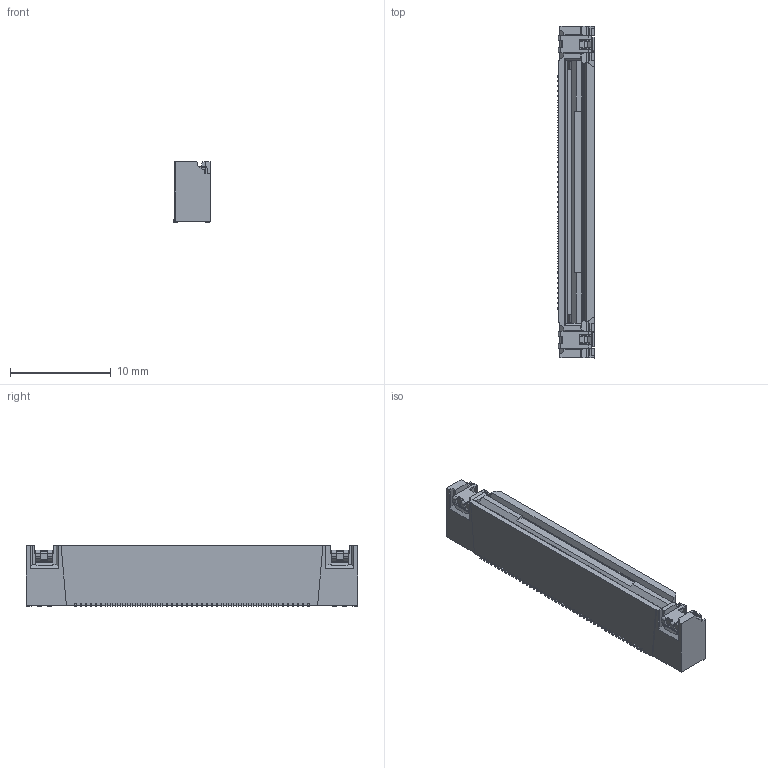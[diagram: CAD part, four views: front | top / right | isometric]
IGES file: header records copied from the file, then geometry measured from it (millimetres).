
Start section: SolidWorks IGES file using analytic representation for surfaces
Global section: file name: N:\Kamikawa_Hisako\★三次元モデル作成依頼\6810\6810_ANC_修正\OK品\006810645010.IGS,15HSolidWorks; native system: 2021; preprocessor: SolidWorks 2021; author: HISAKO.KAMIKAWA.FJ; date: 220620.130741; units: millimetre
Bounding box: 3.6 x 32.9 x 6 mm (x, y, z)
Surface area: 1482.3 mm2 (no closed solid volume)
Topology: 0 solids, 0 shells, 1161 faces, 7760 edges, 7756 vertices
Faces by surface type: bspline 924, revolution 237
